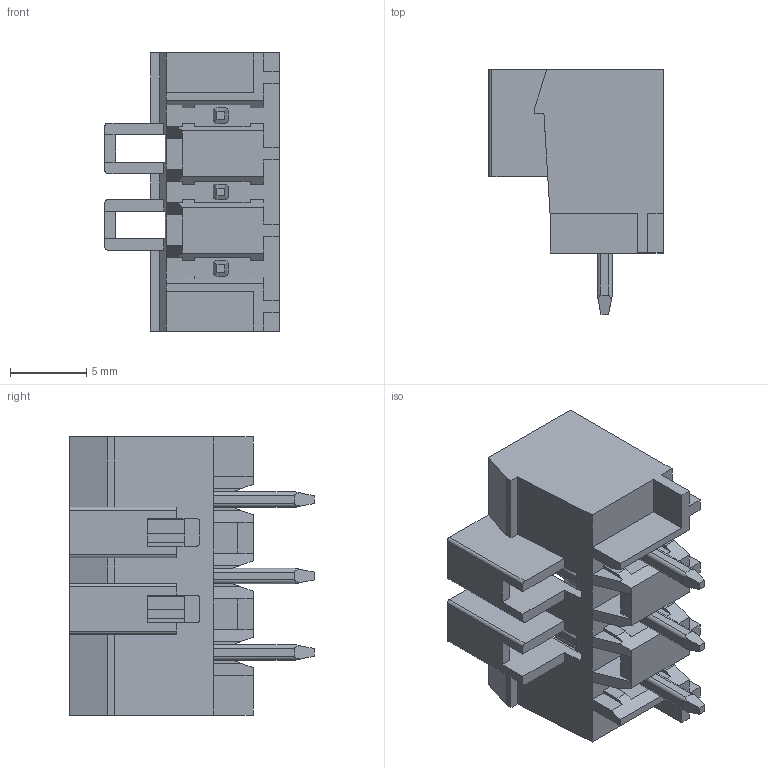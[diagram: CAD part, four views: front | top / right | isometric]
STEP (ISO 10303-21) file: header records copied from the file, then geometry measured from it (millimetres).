
FILE_DESCRIPTION((''),'2;1');
FILE_NAME('3PIN_SW0001','2019-05-27T',('zhenbing.lai'),(''),'CREO PARAMETRIC BY PTC INC, 2016260','CREO PARAMETRIC BY PTC INC, 2016260','');
FILE_SCHEMA(('CONFIG_CONTROL_DESIGN'));
Length unit declared in the file: millimetre
Products named in the file (1): 3PIN_SW0001
Bounding box: 11.4 x 16 x 18.2 mm (x, y, z)
Volume: 830.8 mm3; surface area: 1745.1 mm2
Topology: 1 solids, 1 shells, 274 faces, 765 edges, 496 vertices
Faces by surface type: plane 236, cylinder 35, cone 3
Entity records: 8869 total; most frequent: CARTESIAN_POINT 1876, ORIENTED_EDGE 1530, DIRECTION 1300, EDGE_CURVE 765, VECTOR 662, LINE 662, VERTEX_POINT 496, AXIS2_PLACEMENT_3D 319
